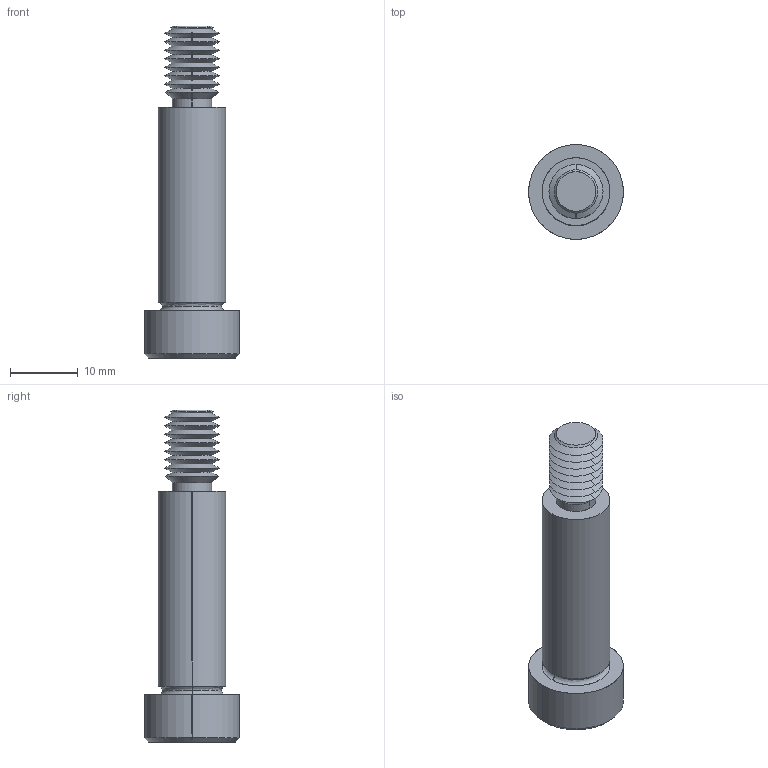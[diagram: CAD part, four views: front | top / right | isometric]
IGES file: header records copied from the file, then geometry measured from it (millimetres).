
Start section: SolidWorks IGES file using analytic representation for surfaces
Global section: file name: C:\Users\IanO\Documents\Temp Folder\GENERAL\SCREW REVISION\P0130_v2\P0130.T5_v2_20220106_IGES\P0130.100-030-T5.igs; native system: SolidWorks 2019; preprocessor: SolidWorks 2019; author: IanO; date: 220106.224256; units: millimetre
Bounding box: 14 x 14 x 49 mm (x, y, z)
Surface area: 2119.1 mm2 (no closed solid volume)
Topology: 0 solids, 0 shells, 72 faces, 548 edges, 546 vertices
Faces by surface type: revolution 52, bspline 20
